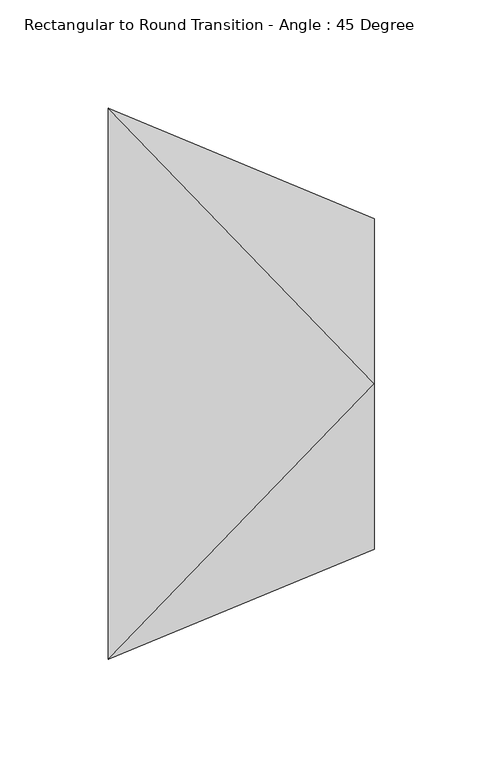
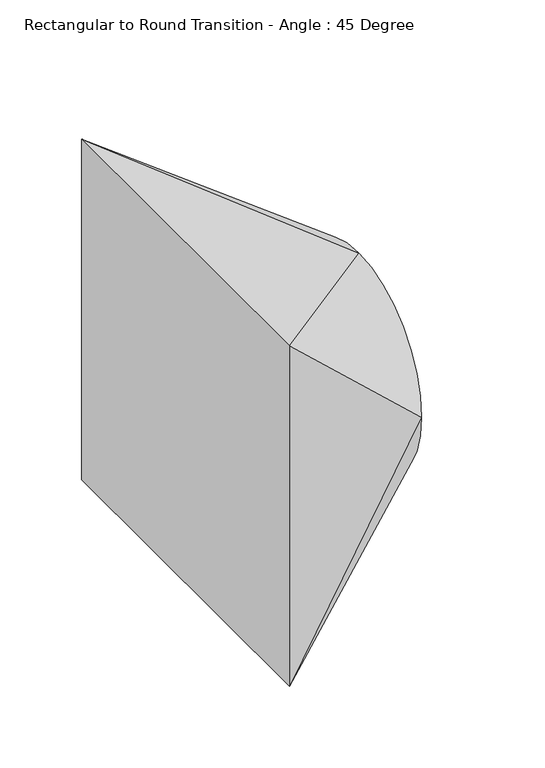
"""IFC4 building model written with IfcOpenShell, lengths in millimetres: duct fitting geometry, Rectangular to Round Transition - Angle : 45 Degree."""

from ifc_helpers import new_model, si_unit, frame, origin, place, context, project, spatial, circle_curve, source, transform, mapped, element, save
from ifc_brep_helpers import plane_surface, spline_surface, advanced_brep


def rectangular_to_round_transition_angle_45_degree_7c5ae392(model_context):
    return source(origin(), model_context, "Body", "AdvancedBrep", [
        advanced_brep(
        [(122.642049, 0.0, 76.2), (122.642049, -76.2, 0.0), (122.642049, 0.0, -76.2), (122.642049, 76.2, 0.0), (0.0, -127.0, 127.0), (0.0, 127.0, 127.0), (0.0, 127.0, -127.0), (0.0, -127.0, -127.0)],
        [
            (0, 1, circle_curve(frame((122.642049, 0.0, 0.0), z_axis=(1.0, 0.0, 0.0), x_axis=(0.0, 1.0, 0.0)), 76.2)),
            (1, 2, circle_curve(frame((122.642049, 0.0, 0.0), z_axis=(1.0, 0.0, 0.0), x_axis=(0.0, 1.0, 0.0)), 76.2)),
            (2, 3, circle_curve(frame((122.642049, 0.0, 0.0), z_axis=(1.0, 0.0, 0.0), x_axis=(0.0, 1.0, 0.0)), 76.2)),
            (3, 0, circle_curve(frame((122.642049, 0.0, 0.0), z_axis=(1.0, 0.0, 0.0), x_axis=(0.0, 1.0, 0.0)), 76.2)),
            (4, 5),
            (5, 6),
            (6, 7),
            (7, 4),
            (0, 4),
            (4, 1),
            (7, 1),
            (7, 2),
            (6, 2),
            (6, 3),
            (5, 3),
            (5, 0),
        ],
        [
            plane_surface(frame((122.642049, 0.0, 0.0), z_axis=(1.0, 0.0, 0.0), x_axis=(0.0, 0.0, -1.0))),
            plane_surface(frame((0.0, 0.0, 0.0), z_axis=(-1.0, 0.0, 0.0), x_axis=(0.0, 0.0, -1.0))),
            spline_surface(2, 1, [[(0.0, -127.0, 127.0), (122.642049, 0.0, 76.2)], [(0.0, -127.0, 127.0), (122.642049, -76.2, 76.2)], [(0.0, -127.0, 127.0), (122.642049, -76.2, 0.0)]], [3, 3], [2, 2], [0.0, 1.0], [0.0, 1.0], weights=[[1.0, 1.0], [0.7071067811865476, 0.7071067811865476], [1.0, 1.0]]),
            plane_surface(frame((0.0, -127.0, 0.0), z_axis=(0.3826834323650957, -0.9238795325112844, 0.0), x_axis=(0.0, 0.0, -1.0))),
            spline_surface(2, 1, [[(0.0, -127.0, -127.0), (122.642049, -76.2, 0.0)], [(0.0, -127.0, -127.0), (122.642049, -76.2, -76.2)], [(0.0, -127.0, -127.0), (122.642049, 0.0, -76.2)]], [3, 3], [2, 2], [0.0, 1.0], [0.0, 1.0], weights=[[1.0, 1.0], [0.7071067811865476, 0.7071067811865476], [1.0, 1.0]]),
            plane_surface(frame((0.0, 0.0, -127.0), z_axis=(0.3826834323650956, 0.0, -0.9238795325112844), x_axis=(0.0, 1.0, 0.0))),
            spline_surface(2, 1, [[(0.0, 127.0, -127.0), (122.642049, 0.0, -76.2)], [(0.0, 127.0, -127.0), (122.642049, 76.2, -76.2)], [(0.0, 127.0, -127.0), (122.642049, 76.2, 0.0)]], [3, 3], [2, 2], [0.0, 1.0], [0.0, 1.0], weights=[[1.0, 1.0], [0.7071067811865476, 0.7071067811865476], [1.0, 1.0]]),
            plane_surface(frame((0.0, 127.0, 0.0), z_axis=(0.38268343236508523, 0.9238795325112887, 0.0), x_axis=(0.0, 0.0, 1.0))),
            spline_surface(2, 1, [[(0.0, 127.0, 127.0), (122.642049, 76.2, 0.0)], [(0.0, 127.0, 127.0), (122.642049, 76.2, 76.2)], [(0.0, 127.0, 127.0), (122.642049, 0.0, 76.2)]], [3, 3], [2, 2], [0.0, 1.0], [0.0, 1.0], weights=[[1.0, 1.0], [0.7071067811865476, 0.7071067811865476], [1.0, 1.0]]),
            plane_surface(frame((0.0, 0.0, 127.0), z_axis=(0.3826834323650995, 0.0, 0.9238795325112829), x_axis=(0.0, -1.0, 0.0))),
        ],
        [
            (0, [[1, 2, 3, 4]]),
            (1, [[5, 6, 7, 8]]),
            (2, [[-1, 9, 10]]),
            (3, [[-8, 11, -10]]),
            (4, [[-2, -11, 12]]),
            (5, [[-7, 13, -12]]),
            (6, [[-3, -13, 14]]),
            (7, [[-6, 15, -14]]),
            (8, [[-4, -15, 16]]),
            (9, [[-5, -9, -16]]),
        ],
    ),
    ])


if __name__ == "__main__":
    model = new_model("IFC4")
    model_context = context("Model", 3, world=origin())
    ifc_project = project(units=[si_unit("LENGTHUNIT", "METRE", prefix="MILLI")], contexts=[model_context])
    site = spatial("IfcSite", under=ifc_project)
    building = spatial("IfcBuilding", under=site)
    placement = place(None, origin())
    rectangular_to_round_transition_angle_45_degree_shape = rectangular_to_round_transition_angle_45_degree_7c5ae392(model_context)
    element("IfcDuctFitting", 1, ObjectType="Rectangular to Round Transition - Angle : 45 Degree", at=placement, inside=building, context=model_context, shape_type="MappedRepresentation", body=[
        mapped(rectangular_to_round_transition_angle_45_degree_shape, transform((0.0, 0.0, 0.0), x_axis=(1.0, 0.0, 0.0), y_axis=(0.0, 1.0, 0.0), z_axis=(0.0, 0.0, 1.0))),
    ])
    save(model, "model.ifc")
